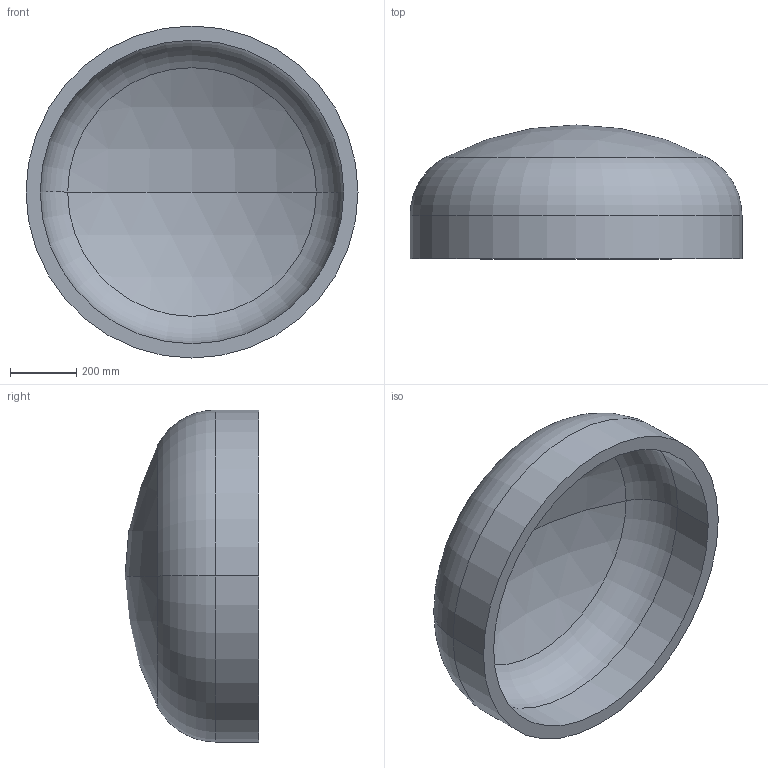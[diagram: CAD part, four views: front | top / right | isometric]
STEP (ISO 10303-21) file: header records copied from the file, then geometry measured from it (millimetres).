
FILE_DESCRIPTION (( 'STEP AP203' ), '1' );
FILE_NAME ('DIN 28013 Korbbogenform_-_Boden DIN 28013 - 1000 x 130 - I - s=43.step', '2016-07-01T08:49:19', ( '' ), ( '' ), 'SwSTEP 2.0', 'SolidWorks 2013', '' );
FILE_SCHEMA (( 'CONFIG_CONTROL_DESIGN' ));
Length unit declared in the file: millimetre
Products named in the file (1): DIN 28013 Korbbogenform_-_Boden DIN 28013 - 1000 x 130 - I - s=43
Bounding box: 1000 x 403.07 x 1000 mm (x, y, z)
Volume: 61110121.8 mm3; surface area: 2975482.8 mm2
Topology: 1 solids, 1 shells, 13 faces, 24 edges, 14 vertices
Faces by surface type: torus 4, cylinder 4, sphere 4, plane 1
Entity records: 407 total; most frequent: DIRECTION 72, CARTESIAN_POINT 52, ORIENTED_EDGE 48, AXIS2_PLACEMENT_3D 34, EDGE_CURVE 24, CIRCLE 20, EDGE_LOOP 14, VERTEX_POINT 14
